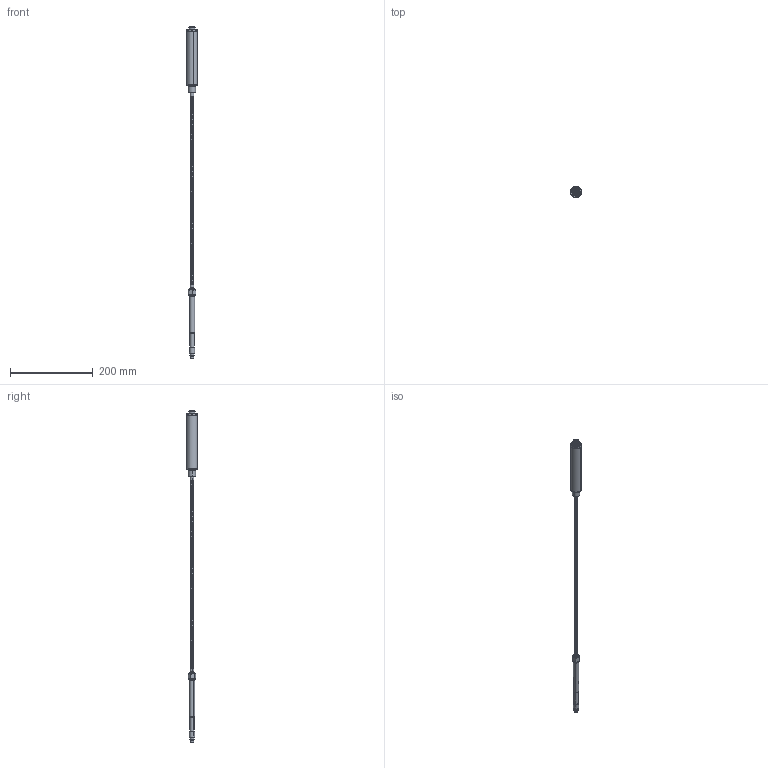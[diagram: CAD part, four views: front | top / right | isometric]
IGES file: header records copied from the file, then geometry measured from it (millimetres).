
Start section: SolidWorks IGES file using analytic representation for surfaces
Global section: file name: C:\Users\daniele.peli\Desktop\Simona\KE1\KE1-8-x-xxxx-1-4-D-x-P.IGS; native system: SolidWorks 2021; preprocessor: SolidWorks 2021; author: daniele.peli; date: 210204.141034; units: millimetre
Bounding box: 26.5 x 26.5 x 804.42 mm (x, y, z)
Surface area: 33819.8 mm2 (no closed solid volume)
Topology: 0 solids, 0 shells, 303 faces, 7480 edges, 7464 vertices
Faces by surface type: revolution 253, bspline 50
